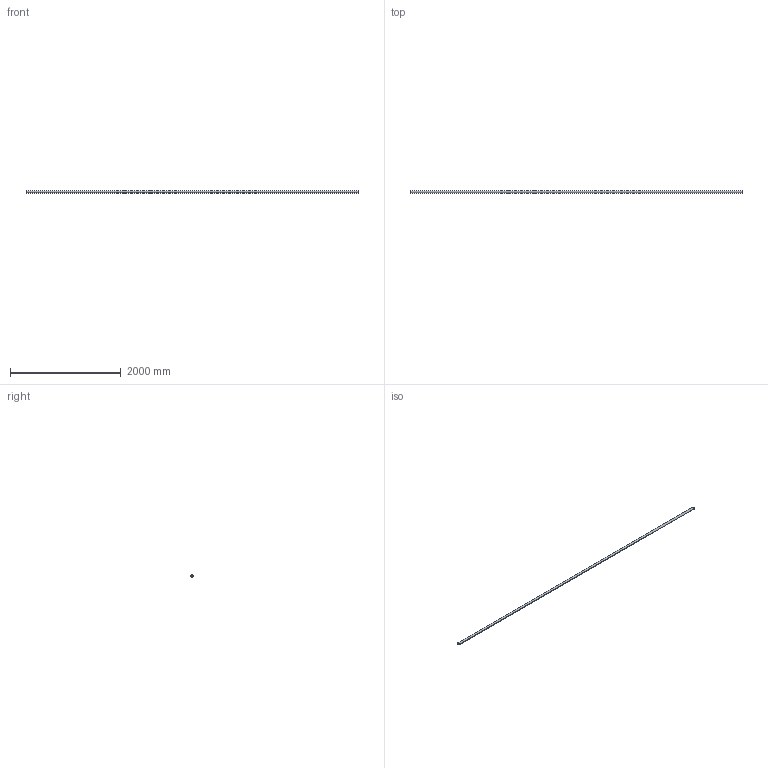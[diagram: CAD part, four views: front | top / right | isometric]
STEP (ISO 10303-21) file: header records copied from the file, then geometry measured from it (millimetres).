
FILE_DESCRIPTION (( 'STEP AP214' ), '1' );
FILE_NAME ('P420000.STEP', '2025-08-17T14:41:57', ( '' ), ( '' ), 'SwSTEP 2.0', 'SolidWorks 2020', '' );
FILE_SCHEMA (( 'AUTOMOTIVE_DESIGN' ));
Length unit declared in the file: millimetre
Products named in the file (1): P420000
Bounding box: 6000 x 42 x 42 mm (x, y, z)
Volume: 1145110.5 mm3; surface area: 1527195.7 mm2
Topology: 1 solids, 1 shells, 6 faces, 12 edges, 8 vertices
Faces by surface type: cylinder 4, plane 2
Entity records: 268 total; most frequent: DIRECTION 34, CARTESIAN_POINT 27, ORIENTED_EDGE 24, AXIS2_PLACEMENT_3D 15, EDGE_CURVE 12, UNCERTAINTY_MEASURE_WITH_UNIT 9, PRESENTATION_LAYER_ASSIGNMENT 8, VERTEX_POINT 8
